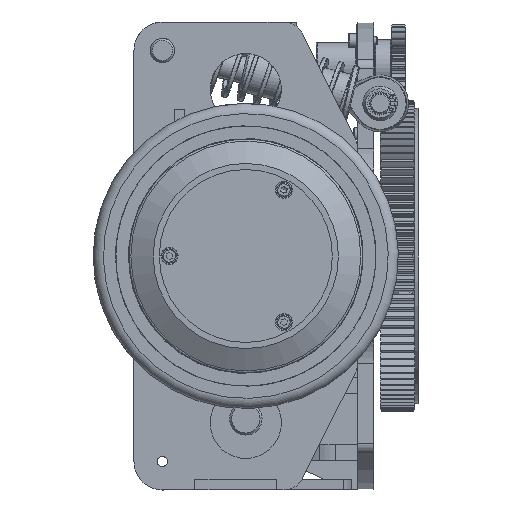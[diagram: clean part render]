
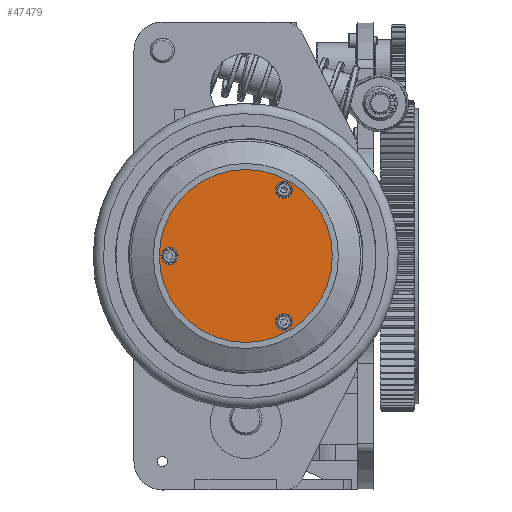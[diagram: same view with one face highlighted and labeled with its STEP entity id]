
A CAD part, left-side view. The second image highlights one B-rep face of the part: STEP entity #47479.
In plain terms, the highlighted planar face has unit normal (-1, 0, 0).
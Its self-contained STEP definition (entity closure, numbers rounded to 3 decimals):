
#1802 = EDGE_LOOP ( 'NONE', ( #108839 ) ) ;
#8666 = EDGE_LOOP ( 'NONE', ( #24846 ) ) ;
#12148 = DIRECTION ( 'NONE',  ( -1., 0., 0. ) ) ;
#14517 = DIRECTION ( 'NONE',  ( 0., -1., 0. ) ) ;
#14614 = CARTESIAN_POINT ( 'NONE',  ( -335.816, 18.521, 160.001 ) ) ;
#20051 = EDGE_CURVE ( 'NONE', #118661, #118661, #98462, .T. ) ;
#21625 = CIRCLE ( 'NONE', #51361, 4.2 ) ;
#21890 = ORIENTED_EDGE ( 'NONE', *, *, #97376, .T. ) ;
#24846 = ORIENTED_EDGE ( 'NONE', *, *, #60855, .T. ) ;
#29282 = AXIS2_PLACEMENT_3D ( 'NONE', #72617, #34437, #81424 ) ;
#29393 = DIRECTION ( 'NONE',  ( 0., -1., 0. ) ) ;
#29417 = CARTESIAN_POINT ( 'NONE',  ( -335.816, -4.429, 127.525 ) ) ;
#32833 = CARTESIAN_POINT ( 'NONE',  ( -335.816, 18.521, 160.001 ) ) ;
#34437 = DIRECTION ( 'NONE',  ( 1., 0., 0. ) ) ;
#34470 = DIRECTION ( 'NONE',  ( -1., 0., 0. ) ) ;
#40951 = EDGE_LOOP ( 'NONE', ( #21890 ) ) ;
#41828 = CARTESIAN_POINT ( 'NONE',  ( -335.816, 51.821, 160.001 ) ) ;
#47479 = ADVANCED_FACE ( 'NONE', ( #111029, #91496, #65995, #82430 ), #71453, .T. ) ;
#49801 = AXIS2_PLACEMENT_3D ( 'NONE', #14614, #34470, #63016 ) ;
#51361 = AXIS2_PLACEMENT_3D ( 'NONE', #90226, #52827, #14517 ) ;
#52827 = DIRECTION ( 'NONE',  ( 1., 0., 0. ) ) ;
#55336 = CARTESIAN_POINT ( 'NONE',  ( -335.816, -4.429, 192.477 ) ) ;
#56923 = EDGE_LOOP ( 'NONE', ( #87528 ) ) ;
#57535 = DIRECTION ( 'NONE',  ( 1., 0., 0. ) ) ;
#60838 = AXIS2_PLACEMENT_3D ( 'NONE', #32833, #12148, #98758 ) ;
#60855 = EDGE_CURVE ( 'NONE', #85289, #85289, #60969, .T. ) ;
#60969 = CIRCLE ( 'NONE', #80108, 4.2 ) ;
#63016 = DIRECTION ( 'NONE',  ( 0., -1., 0. ) ) ;
#64332 = CARTESIAN_POINT ( 'NONE',  ( -335.816, -0.229, 127.525 ) ) ;
#65995 = FACE_BOUND ( 'NONE', #8666, .T. ) ;
#71453 = PLANE ( 'NONE',  #60838 ) ;
#71603 = VERTEX_POINT ( 'NONE', #55336 ) ;
#72617 = CARTESIAN_POINT ( 'NONE',  ( -335.816, -0.229, 192.477 ) ) ;
#80108 = AXIS2_PLACEMENT_3D ( 'NONE', #64332, #57535, #29393 ) ;
#81424 = DIRECTION ( 'NONE',  ( 0., -1., 0. ) ) ;
#82430 = FACE_OUTER_BOUND ( 'NONE', #1802, .T. ) ;
#85231 = CIRCLE ( 'NONE', #29282, 4.2 ) ;
#85289 = VERTEX_POINT ( 'NONE', #29417 ) ;
#87528 = ORIENTED_EDGE ( 'NONE', *, *, #124543, .T. ) ;
#90226 = CARTESIAN_POINT ( 'NONE',  ( -335.816, 56.021, 160.001 ) ) ;
#91496 = FACE_BOUND ( 'NONE', #56923, .T. ) ;
#92398 = VERTEX_POINT ( 'NONE', #41828 ) ;
#97376 = EDGE_CURVE ( 'NONE', #71603, #71603, #85231, .T. ) ;
#98462 = CIRCLE ( 'NONE', #49801, 42.5 ) ;
#98539 = CARTESIAN_POINT ( 'NONE',  ( -335.816, -23.979, 160.001 ) ) ;
#98758 = DIRECTION ( 'NONE',  ( 0., -1., 0. ) ) ;
#108839 = ORIENTED_EDGE ( 'NONE', *, *, #20051, .T. ) ;
#111029 = FACE_BOUND ( 'NONE', #40951, .T. ) ;
#118661 = VERTEX_POINT ( 'NONE', #98539 ) ;
#124543 = EDGE_CURVE ( 'NONE', #92398, #92398, #21625, .T. ) ;
